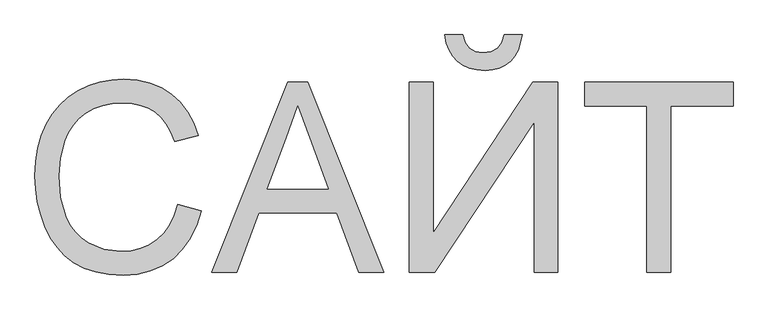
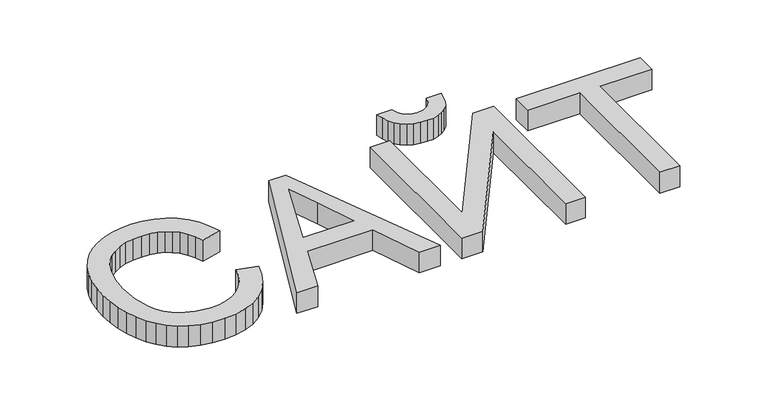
"""IFC4 building model written with IfcOpenShell, lengths in millimetres: proxy geometry, VALTEC_Ссылка : САЙТ."""

import ifcopenshell
import ifcopenshell.guid

model = None  # the IFC model being written
_history = None  # IfcOwnerHistory: only IFC2X3 demands one
_inside = {}  # id of a spatial element -> (the spatial element, [elements in it])
_under = {}  # id of a project, library or spatial element -> (it, [spatial elements below it])
_declared = {}  # id of a project -> (the project, [libraries it declares])
_typed = {}  # id of a type object -> (the type object, [elements of that type])
_made_of = {}  # id of a material, layer set ... -> (it, [elements and type objects made of it])


def new_model(schema):
    """Start an empty IFC model of exactly this schema.

    Asked for "IFC4X3", IfcOpenShell would pick the latest addendum, in which some entities
    have other attributes; the version numbers below select the first issue.
    IFC2X3 requires an IfcOwnerHistory on every rooted entity: one is made here for all.
    """
    global model, _history
    if schema == "IFC4X3":
        model = ifcopenshell.file(schema_version=(4, 3, 0, 0))
    else:
        model = ifcopenshell.file(schema=schema)
    _inside.clear()
    _under.clear()
    _declared.clear()
    _typed.clear()
    _made_of.clear()
    _history = None
    if model.schema == "IFC2X3":
        org = make("IfcOrganization", Name="unknown")
        user = make(
            "IfcPersonAndOrganization",
            ThePerson=make("IfcPerson", FamilyName="unknown"),
            TheOrganization=org,
        )
        app = make(
            "IfcApplication",
            ApplicationDeveloper=org,
            Version="unknown",
            ApplicationFullName="unknown",
            ApplicationIdentifier="unknown",
        )
        _history = make(
            "IfcOwnerHistory",
            OwningUser=user,
            OwningApplication=app,
            ChangeAction="ADDED",
            CreationDate=0,
        )
    return model


def make(cls, **values):
    """One entity of the class cls with the attributes given. An attribute that is None is left unset."""
    return model.create_entity(
        cls, **{name: value for name, value in values.items() if value is not None}
    )


def rooted(cls, **values):
    """An entity with a GlobalId (a new one), such as an element, a storey or a relation."""
    return make(cls, GlobalId=ifcopenshell.guid.new(), OwnerHistory=_history, **values)


def si_unit(unit_type, name, prefix=None):
    """IfcSIUnit, for example si_unit("LENGTHUNIT", "METRE", prefix="MILLI")."""
    return make("IfcSIUnit", UnitType=unit_type, Prefix=prefix, Name=name)


def assignment(units):
    """IfcUnitAssignment: the units of a project."""
    return None if units is None else make("IfcUnitAssignment", Units=units)


def point(xyz):
    """IfcCartesianPoint."""
    return None if xyz is None else make("IfcCartesianPoint", Coordinates=xyz)


def direction(xyz):
    """IfcDirection."""
    return None if xyz is None else make("IfcDirection", DirectionRatios=xyz)


def frame(location, z_axis=None, x_axis=None):
    """IfcAxis2Placement3D, a coordinate frame: its origin and axes. An axis left out is left unset."""
    return make(
        "IfcAxis2Placement3D",
        Location=point(location),
        Axis=direction(z_axis),
        RefDirection=direction(x_axis),
    )


def origin():
    """The frame at (0, 0, 0) with its axes left unset."""
    return frame((0.0, 0.0, 0.0))


def origin_with_axes():
    """The frame at (0, 0, 0) with the z axis (0, 0, 1) and the x axis (1, 0, 0) written out."""
    return frame((0.0, 0.0, 0.0), z_axis=(0.0, 0.0, 1.0), x_axis=(1.0, 0.0, 0.0))


def place(relative_to, where):
    """IfcLocalPlacement: puts the frame where relative to a parent placement (None: the world)."""
    return make(
        "IfcLocalPlacement", PlacementRelTo=relative_to, RelativePlacement=where
    )


def context(
    kind, dimensions, precision=None, world=None, true_north=None, identifier=None
):
    """IfcGeometricRepresentationContext, for example the 3D "Model" context."""
    return make(
        "IfcGeometricRepresentationContext",
        ContextIdentifier=identifier,
        ContextType=kind,
        CoordinateSpaceDimension=dimensions,
        Precision=precision,
        WorldCoordinateSystem=world,
        TrueNorth=true_north,
    )


def project(units=None, contexts=None):
    """IfcProject with its units and contexts."""
    return rooted(
        "IfcProject",
        Name="project",
        RepresentationContexts=contexts,
        UnitsInContext=assignment(units),
    )


def spatial(cls, under=None, at=None, **own):
    """A site, building, storey or space (cls), placed at a placement, below another one or the project."""
    s = rooted(cls, ObjectPlacement=at, **own)
    if under is not None:
        _under.setdefault(under.id(), (under, []))[1].append(s)
    return s


def polyline(points):
    """IfcPolyline through the points."""
    return make("IfcPolyline", Points=[point(p) for p in points])


def outline(outer, holes=None, kind="AREA"):
    """IfcArbitraryClosedProfileDef: a profile drawn as a closed curve; with holes, ...WithVoids."""
    if holes is None:
        return make("IfcArbitraryClosedProfileDef", ProfileType=kind, OuterCurve=outer)
    return make(
        "IfcArbitraryProfileDefWithVoids",
        ProfileType=kind,
        OuterCurve=outer,
        InnerCurves=holes,
    )


def extrude(swept, where, along, depth):
    """IfcExtrudedAreaSolid: the profile swept, set in the frame where, extruded along a direction by depth."""
    return make(
        "IfcExtrudedAreaSolid",
        SweptArea=swept,
        Position=where,
        ExtrudedDirection=direction(along),
        Depth=depth,
    )


def shape(context_of_items, identifier, shape_type, items):
    """IfcShapeRepresentation: the items that make up one representation, for example the "Body"."""
    return make(
        "IfcShapeRepresentation",
        ContextOfItems=context_of_items,
        RepresentationIdentifier=identifier,
        RepresentationType=shape_type,
        Items=items,
    )


def source(mapping_origin, context_of_items, identifier, shape_type, items):
    """IfcRepresentationMap: a shape defined once, which mapped items show again and again."""
    return make(
        "IfcRepresentationMap",
        MappingOrigin=mapping_origin,
        MappedRepresentation=shape(context_of_items, identifier, shape_type, items),
    )


def transform(
    local_origin,
    x_axis=None,
    y_axis=None,
    z_axis=None,
    scale=None,
    scale2=None,
    scale3=None,
    uniform=True,
):
    """IfcCartesianTransformationOperator3D, or its non-uniform kind. x_axis, y_axis, z_axis: its Axis1, 2, 3."""
    if uniform:
        return make(
            "IfcCartesianTransformationOperator3D",
            Axis1=direction(x_axis),
            Axis2=direction(y_axis),
            LocalOrigin=point(local_origin),
            Scale=scale,
            Axis3=direction(z_axis),
        )
    return make(
        "IfcCartesianTransformationOperator3DnonUniform",
        Axis1=direction(x_axis),
        Axis2=direction(y_axis),
        LocalOrigin=point(local_origin),
        Scale=scale,
        Axis3=direction(z_axis),
        Scale2=scale2,
        Scale3=scale3,
    )


def mapped(mapping_source, mapping_target):
    """IfcMappedItem: shows the shape of a source again, moved by a transform."""
    return make(
        "IfcMappedItem", MappingSource=mapping_source, MappingTarget=mapping_target
    )


def made_of(thing, what):
    """Note that an element or type object is made of a material, layer set ...; save() writes the relation."""
    if what is not None:
        _made_of.setdefault(what.id(), (what, []))[1].append(thing)
    return thing


def element(
    cls,
    number,
    at=None,
    inside=None,
    cuts=None,
    type_object=None,
    material=None,
    context=None,
    identifier="Body",
    shape_type=None,
    held_by="IfcProductDefinitionShape",
    body=None,
    shapes=None,
    **own,
):
    """One element of the class cls, such as IfcWall. Its Tag is "e" and its number.

    at: its placement. inside: the storey or other place that contains it. cuts: it is an
    opening in that element (IfcRelVoidsElement). A single representation is given by context,
    identifier, shape_type and body (its items); several are given by shapes. held_by: the class
    of the entity that holds the representations. save() writes the other relations.
    """
    e = rooted(cls, Tag="e%d" % number, ObjectPlacement=at, **own)
    if body is not None:
        shapes = [shape(context, identifier, shape_type, body)]
    if shapes is not None:
        e.Representation = make(held_by, Representations=shapes)
    if inside is not None:
        _inside.setdefault(inside.id(), (inside, []))[1].append(e)
    if cuts is not None:
        rooted(
            "IfcRelVoidsElement", RelatingBuildingElement=cuts, RelatedOpeningElement=e
        )
    if type_object is not None:
        _typed.setdefault(type_object.id(), (type_object, []))[1].append(e)
    return made_of(e, material)


def aggregate(whole, parts):
    """IfcRelAggregates: a whole, such as a stair, and the parts it consists of."""
    return rooted("IfcRelAggregates", RelatingObject=whole, RelatedObjects=parts)


def save(model, path):
    """Write the relations noted so far, then the file.

    IfcRelAggregates (storeys below a building ...), IfcRelContainedInSpatialStructure (elements
    in a storey), IfcRelDefinesByType, IfcRelAssociatesMaterial and IfcRelDeclares: one each for
    every whole, place, type object, material and project.
    """
    for whole, parts in _under.values():
        aggregate(whole, parts)
    for where, things in _inside.values():
        rooted(
            "IfcRelContainedInSpatialStructure",
            RelatedElements=things,
            RelatingStructure=where,
        )
    for kind, things in _typed.values():
        rooted("IfcRelDefinesByType", RelatedObjects=things, RelatingType=kind)
    for what, things in _made_of.values():
        rooted("IfcRelAssociatesMaterial", RelatedObjects=things, RelatingMaterial=what)
    for by, libraries in _declared.values():
        rooted("IfcRelDeclares", RelatingContext=by, RelatedDefinitions=libraries)
    model.write(path)


def generic_models_9df9d431(model_context):
    return source(origin(), model_context, "Body", "SweptSolid", [
        extrude(outline(polyline([(287.4070518, -58.1710283), (350.1922456, -74.3578361), (337.7685641, -113.403145), (321.2215385, -147.5203679), (300.5511689, -176.709505), (275.7574553, -200.9705561), (247.3998848, -220.0429383), (216.0379447, -233.6660684), (181.671635, -241.8399465), (144.3009557, -244.5645725), (106.0144035, -242.5029005), (71.4756491, -236.3178845), (40.6846925, -226.0095244), (13.6415337, -211.5778203), (-10.0255413, -193.23737), (-30.6882467, -171.2027713), (-48.3465825, -145.4740243), (-63.0005486, -116.0511289), (-74.5083573, -84.2063437), (-82.7282206, -51.2119272), (-87.6601386, -17.0678796), (-89.3041113, 18.2257993), (-87.4455408, 56.0946522), (-81.8698293, 91.4649732), (-72.5769768, 124.3367623), (-59.5669833, 154.7100196), (-43.1310888, 182.0827393), (-23.560533, 205.9529158), (-0.8553161, 226.3205492), (24.9845619, 243.1856394), (53.0815493, 256.4102307), (82.5580942, 265.8563673), (113.4141965, 271.5240493), (145.6498563, 273.4132767), (181.560504, 270.9683942), (214.4897747, 263.633747), (244.4376683, 251.4093348), (271.404185, 234.2951578), (294.9448006, 212.7434043), (314.614991, 187.2062625), (330.4147563, 157.6837323), (342.3440964, 124.175814), (279.5589026, 109.2152795), (269.672074, 133.9055263), (257.7925512, 155.0012595), (243.9203343, 172.502479), (228.0554233, 186.4091848), (210.1058476, 197.0049527), (189.9796368, 204.5733583), (167.6767908, 209.1144017), (143.1973097, 210.6280828), (115.0313444, 208.9496212), (89.2719406, 203.9142364), (65.9190981, 195.5219284), (44.972817, 183.7726972), (26.6975125, 169.1953731), (11.3575997, 152.3187866), (-1.0469213, 133.1429376), (-10.5160506, 111.6678261), (-22.5182007, 65.7132336), (-26.5189174, 18.3484267), (-21.7824367, -39.6543012), (-7.5729947, -89.8088799), (3.2182105, -111.4641003), (16.6459034, -130.1992573), (32.7100838, -146.014351), (51.4107519, -158.9093813), (93.0887163, -176.0618794), (138.0469618, -181.7793787), (165.3430394, -179.8326698), (190.4548177, -173.9925431), (213.3822966, -164.2589987), (234.1254762, -150.6320364), (252.1938471, -133.1729701), (267.0969, -111.9431133), (278.8346349, -86.942466), (287.4070518, -58.1710283)])), origin_with_axes(), (0.0, 0.0, 1.0), 70.0),
        extrude(outline(polyline([(378.02865, -236.7164233), (578.5243373, 265.5651274), (631.989854, 265.5651274), (832.4855413, -236.7164233), (766.1441549, -236.7164233), (708.6319363, -79.7534387), (501.7596277, -79.7534387), (444.3700364, -236.7164233), (378.02865, -236.7164233)]), holes=[polyline([(524.813566, -16.9682449), (685.7006253, -16.9682449), (640.4511398, 106.5174782), (605.2570956, 202.7799336), (573.987126, 117.3086834), (524.813566, -16.9682449)])]), origin_with_axes(), (0.0, 0.0, 1.0), 70.0),
        extrude(outline(polyline([(899.5626918, 265.5651274), (962.3478856, 265.5651274), (962.3478856, -132.2379367), (1225.2608848, 265.5651274), (1291.9701533, 265.5651274), (1291.9701533, -236.7164233), (1229.1849595, -236.7164233), (1229.1849595, 159.9829948), (966.8850969, -236.7164233), (899.5626918, -236.7164233), (899.5626918, 265.5651274)])), origin_with_axes(), (0.0, 0.0, 1.0), 70.0),
        extrude(outline(polyline([(1150.7034672, 391.1355151), (1197.7923625, 391.1355151), (1187.6602793, 350.9290787), (1178.7659656, 334.7920883), (1167.3194706, 321.2992497), (1153.5507205, 310.6498324), (1137.6896416, 303.0431057), (1119.7362338, 298.4790697), (1099.6904972, 296.9577244), (1077.9164816, 298.4675734), (1058.4570569, 302.9971204), (1041.312223, 310.5463655), (1026.4819801, 321.1153087), (1014.1809259, 334.5506657), (1004.6236582, 350.6991525), (997.8101771, 369.5607689), (993.7404825, 391.1355151), (1040.8293779, 391.1355151), (1047.4512538, 370.4574813), (1058.4877137, 355.7575299), (1074.0000712, 346.9743473), (1094.0496399, 344.0466197), (1116.6743826, 346.8823768), (1133.0451314, 355.3896479), (1144.0815912, 369.9976288), (1150.7034672, 391.1355151)])), origin_with_axes(), (0.0, 0.0, 1.0), 70.0),
        extrude(outline(polyline([(1527.4146302, -236.7164233), (1527.4146302, 202.7799336), (1362.6034964, 202.7799336), (1362.6034964, 265.5651274), (1755.0109579, 265.5651274), (1755.0109579, 202.7799336), (1590.1998241, 202.7799336), (1590.1998241, -236.7164233), (1527.4146302, -236.7164233)])), origin_with_axes(), (0.0, 0.0, 1.0), 70.0),
    ])


if __name__ == "__main__":
    model = new_model("IFC4")
    model_context = context("Model", 3, world=origin())
    ifc_project = project(units=[si_unit("LENGTHUNIT", "METRE", prefix="MILLI")], contexts=[model_context])
    site = spatial("IfcSite", under=ifc_project)
    building = spatial("IfcBuilding", under=site)
    placement = place(None, origin())
    generic_models_shape = generic_models_9df9d431(model_context)
    element("IfcBuildingElementProxy", 1, Name="VALTEC_Ссылка : САЙТ", ObjectType="VALTEC_Ссылка : САЙТ", at=placement, inside=building, context=model_context, shape_type="MappedRepresentation", body=[
        mapped(generic_models_shape, transform((0.0, 0.0, 0.0), x_axis=(1.0, 0.0, 0.0), y_axis=(0.0, 1.0, 0.0), z_axis=(0.0, 0.0, 1.0))),
    ])
    save(model, "model.ifc")
